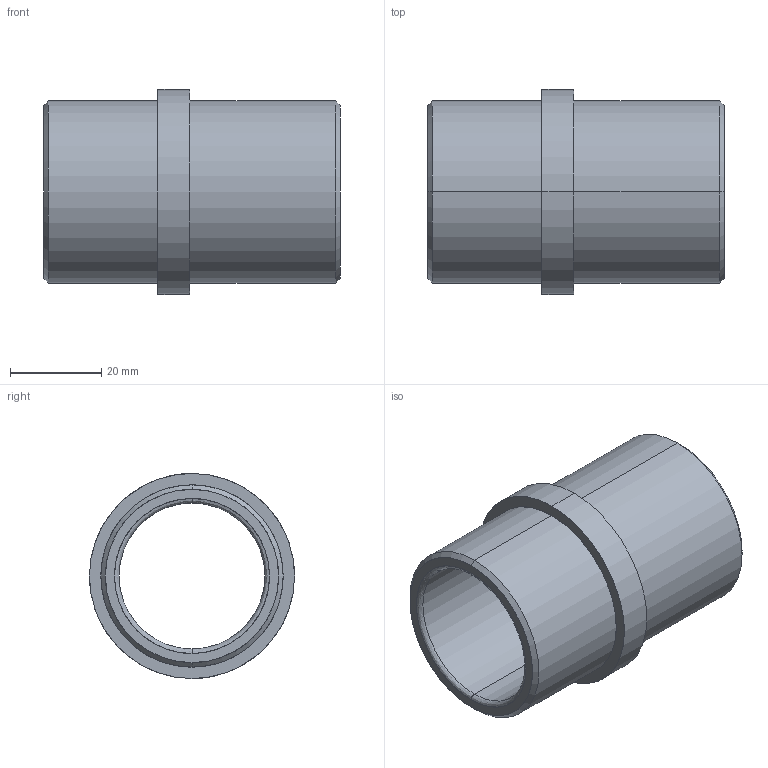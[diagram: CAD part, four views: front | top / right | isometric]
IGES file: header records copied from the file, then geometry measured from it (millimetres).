
Start section: START RECORD GO HERE.
Global section: file name: 355-32X65.igs; native system: DASSAULT SYSTEMES CATIA V5 R20 - www.3ds.com; preprocessor: CATIA Version 5 Release 20 ; author: Utente; organization: NB04-ASUS; date: 20210421.105356; units: millimetre
Bounding box: 65 x 45 x 45 mm (x, y, z)
Surface area: 16149.7 mm2 (no closed solid volume)
Topology: 0 solids, 0 shells, 20 faces, 128 edges, 128 vertices
Faces by surface type: revolution 16, plane 4
